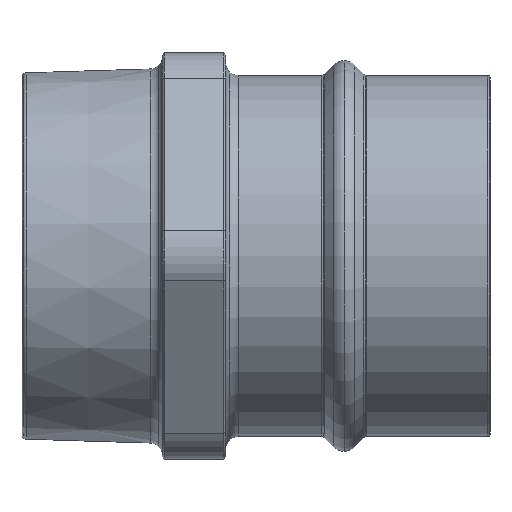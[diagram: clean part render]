
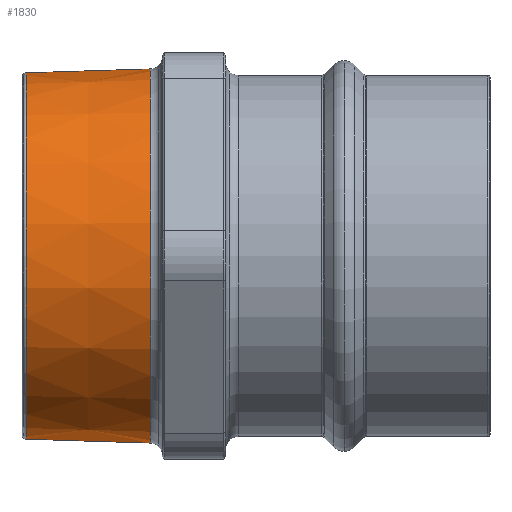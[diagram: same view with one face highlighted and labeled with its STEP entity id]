
A CAD part, top view. The second image highlights one B-rep face of the part: STEP entity #1830.
In plain terms, the highlighted conical face has half-angle 1.79 degrees and reference radius 44.251 mm.
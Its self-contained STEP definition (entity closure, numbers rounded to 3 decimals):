
#265=DIRECTION('',(-1.,-0.031,0.));
#266=VECTOR('',#265,29.647);
#267=CARTESIAN_POINT('',(-81.263,44.714,0.));
#268=LINE('',#267,#266);
#272=DIRECTION('',(-1.,0.031,0.));
#273=VECTOR('',#272,29.647);
#274=CARTESIAN_POINT('',(-81.263,-44.714,0.));
#275=LINE('',#274,#273);
#279=CARTESIAN_POINT('',(-110.895,0.,0.));
#280=DIRECTION('',(1.,0.,0.));
#281=DIRECTION('',(0.,1.,0.));
#282=AXIS2_PLACEMENT_3D('',#279,#280,#281);
#295=CARTESIAN_POINT('',(-81.263,0.,0.));
#296=DIRECTION('',(-1.,0.,0.));
#297=DIRECTION('',(0.,-1.,0.));
#298=AXIS2_PLACEMENT_3D('',#295,#296,#297);
#1417=CARTESIAN_POINT('',(-110.895,-43.788,0.));
#1418=CARTESIAN_POINT('',(-110.895,43.788,
0.));
#1419=VERTEX_POINT('',#1417);
#1420=VERTEX_POINT('',#1418);
#1421=CARTESIAN_POINT('',(-81.263,-44.714,0.));
#1422=VERTEX_POINT('',#1421);
#1423=CARTESIAN_POINT('',(-81.263,44.714,
0.));
#1424=VERTEX_POINT('',#1423);
#1817=CARTESIAN_POINT('',(-96.079,0.,0.));
#1818=DIRECTION('',(1.,0.,0.));
#1819=DIRECTION('',(0.,1.,0.));
#1820=AXIS2_PLACEMENT_3D('',#1817,#1818,#1819);
#1821=CONICAL_SURFACE('',#1820,44.251,1.79);
#1823=ORIENTED_EDGE('',*,*,#1822,.F.);
#1824=ORIENTED_EDGE('',*,*,#1812,.F.);
#1826=ORIENTED_EDGE('',*,*,#1825,.F.);
#1827=ORIENTED_EDGE('',*,*,#1808,.T.);
#1828=EDGE_LOOP('',(#1823,#1824,#1826,#1827));
#1829=FACE_OUTER_BOUND('',#1828,.F.);
#283=CIRCLE('',#282,43.788);
#299=CIRCLE('',#298,44.714);
#1808=EDGE_CURVE('',#1422,#1419,#275,.T.);
#1812=EDGE_CURVE('',#1424,#1420,#268,.T.);
#1822=EDGE_CURVE('',#1420,#1419,#283,.T.);
#1825=EDGE_CURVE('',#1422,#1424,#299,.T.);
#1830=ADVANCED_FACE('',(#1829),#1821,.T.);
